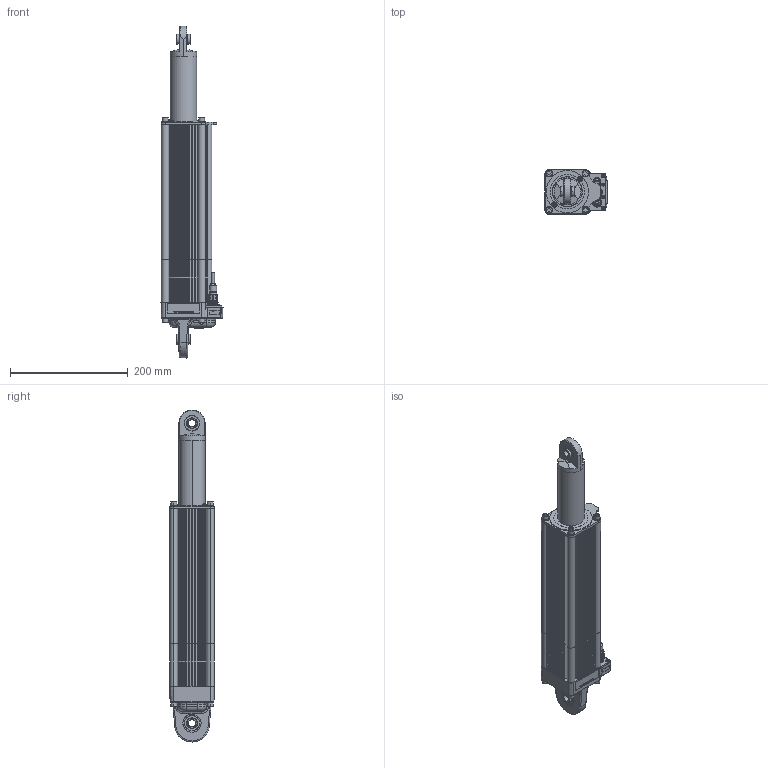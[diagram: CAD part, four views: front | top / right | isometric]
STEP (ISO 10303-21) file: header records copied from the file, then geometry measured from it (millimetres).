
FILE_DESCRIPTION (( 'STEP AP214' ), '1' );
FILE_NAME ('AG_9133.STEP', '2022-07-26T08:34:36', ( '' ), ( '' ), 'SwSTEP 2.0', 'SolidWorks 2019', '' );
FILE_SCHEMA (( 'AUTOMOTIVE_DESIGN' ));
Length unit declared in the file: millimetre
Products named in the file (1): AG_9133
Bounding box: 105.43 x 76.28 x 564.5 mm (x, y, z)
Volume: 1932411 mm3; surface area: 409638.6 mm2
Topology: 56 solids, 56 shells, 3279 faces, 8878 edges, 5869 vertices
Faces by surface type: plane 1359, cylinder 1307, bspline 309, cone 210, torus 60, sphere 34
Entity records: 162300 total; most frequent: CARTESIAN_POINT 43898, ORIENTED_EDGE 17644, DIRECTION 16605, EDGE_CURVE 8822, AXIS2_PLACEMENT_3D 6027, VERTEX_POINT 5857, LINE 4551, VECTOR 4551
